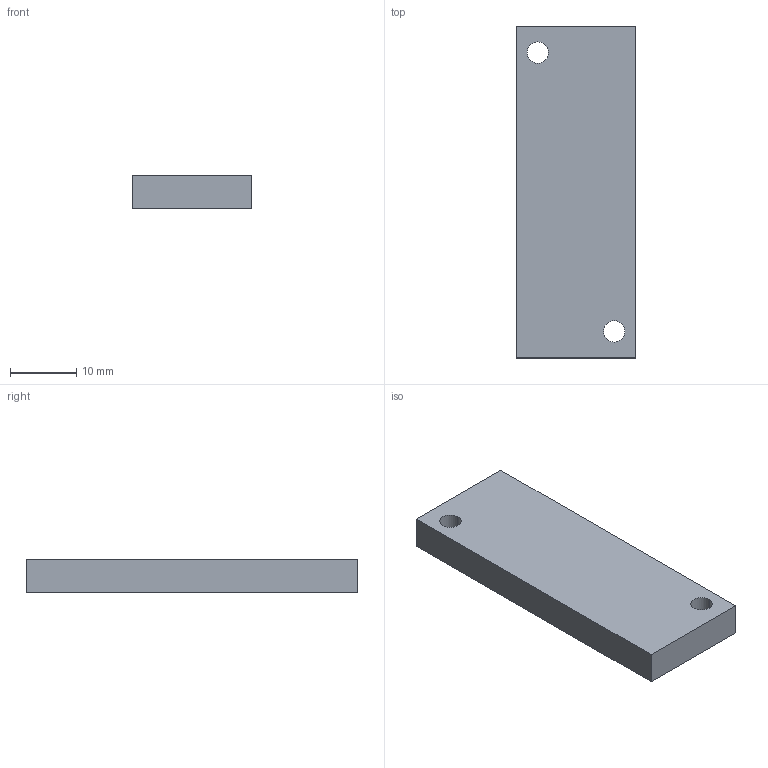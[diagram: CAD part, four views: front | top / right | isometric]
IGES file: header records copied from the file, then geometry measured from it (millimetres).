
Global section: file name: No Iges File Name specified; native system: AutoDesk Inventor R11.0; preprocessor: AutoDesk Inventor Iges Exporter R11.0; author: No Author specified; organization: No Organization specified; date: 20061201.120410; units: millimetre
Bounding box: 18 x 50 x 5 mm (x, y, z)
Volume: 4354.2 mm3; surface area: 2581 mm2
Topology: 1 solids, 1 shells, 13 faces, 30 edges, 20 vertices
Faces by surface type: plane 7, revolution 6
